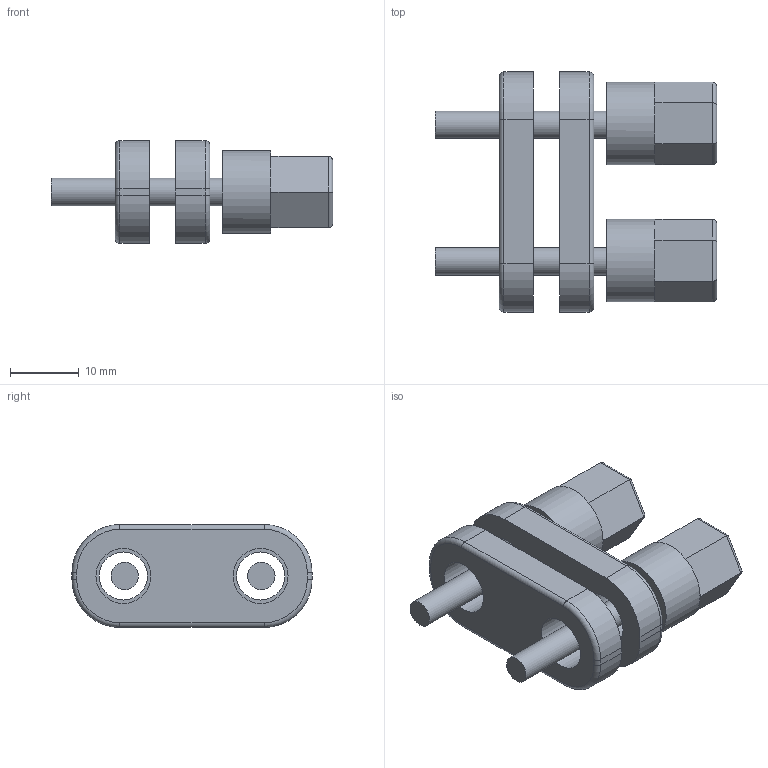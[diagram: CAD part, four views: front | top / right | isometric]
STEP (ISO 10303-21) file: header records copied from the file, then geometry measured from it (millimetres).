
FILE_DESCRIPTION(('FreeCAD Model'),'2;1');
FILE_NAME('Open CASCADE Shape Model','2024-02-21T10:04:34',('Author'),( ''),'Open CASCADE STEP processor 7.5','FreeCAD','Unknown');
FILE_SCHEMA(('AUTOMOTIVE_DESIGN { 1 0 10303 214 1 1 1 1 }'));
Length unit declared in the file: millimetre
Products named in the file (7): klemniki; Body122; Body123; Body124; Body125; Цилиндр004; Цилиндр005
Assembly tree (6 placements, depth 2):
  klemniki
    Body122
    Body123
    Body124
    Body125
    Цилиндр004
    Цилиндр005
Bounding box: 41 x 35 x 15 mm (x, y, z)
Volume: 6464.1 mm3; surface area: 5696.4 mm2
Topology: 6 solids, 6 shells, 90 faces, 182 edges, 104 vertices
Faces by surface type: plane 44, cylinder 38, torus 8
Full cylindrical faces by diameter (mm): 4 x2, 7 x2, 8 x4, 12 x2
Entity records: 5069 total; most frequent: CARTESIAN_POINT 1059, DIRECTION 776, LINE 390, VECTOR 390, ORIENTED_EDGE 364, PCURVE 364, DEFINITIONAL_REPRESENTATION 364, EDGE_CURVE 182
